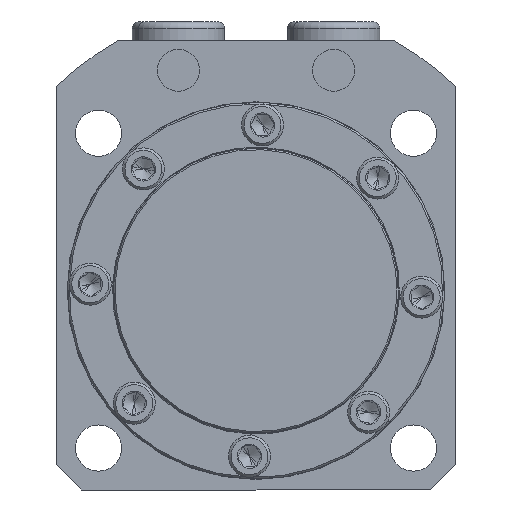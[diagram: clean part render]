
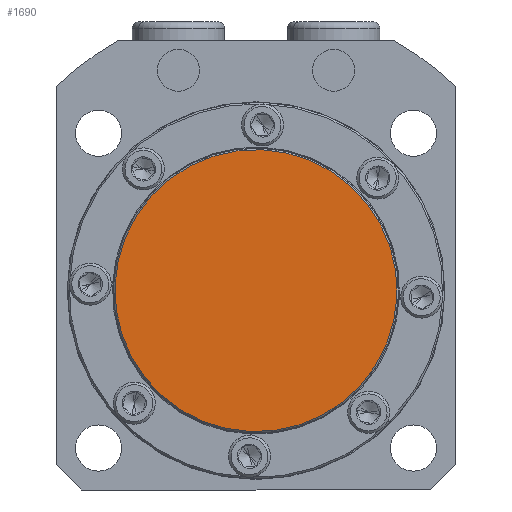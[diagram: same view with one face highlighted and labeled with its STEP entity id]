
A CAD part, front view. The second image highlights one B-rep face of the part: STEP entity #1690.
In plain terms, the highlighted planar face has unit normal (0, -1, 0).
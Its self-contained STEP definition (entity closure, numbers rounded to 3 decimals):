
#644 = EDGE_CURVE ( 'NONE', #2389, #2469, #5533, .T. ) ;
#1546 = ORIENTED_EDGE ( 'NONE', *, *, #644, .T. ) ;
#1547 = ORIENTED_EDGE ( 'NONE', *, *, #2965, .T. ) ;
#1690 = ADVANCED_FACE ( 'NONE', ( #4175 ), #4176, .T. ) ;
#2224 = EDGE_LOOP ( 'NONE', ( #1546, #1547 ) ) ;
#2389 = VERTEX_POINT ( 'NONE', #4348 ) ;
#2469 = VERTEX_POINT ( 'NONE', #4428 ) ;
#2965 = EDGE_CURVE ( 'NONE', #2469, #2389, #3179, .T. ) ;
#3103 = AXIS2_PLACEMENT_3D ( 'NONE', #4167, #4179, #4180 ) ;
#3179 = CIRCLE ( 'NONE', #3182, 33.6 ) ;
#3182 = AXIS2_PLACEMENT_3D ( 'NONE', #4661, #4662, #4663 ) ;
#3681 = CARTESIAN_POINT ( 'NONE',  ( 0., -13., 0. ) ) ;
#3682 = DIRECTION ( 'NONE',  ( 0., -1., 0. ) ) ;
#3683 = DIRECTION ( 'NONE',  ( 0., 0., -1. ) ) ;
#4167 = CARTESIAN_POINT ( 'NONE',  ( 0., -13., 0. ) ) ;
#4175 = FACE_OUTER_BOUND ( 'NONE', #2224, .T. ) ;
#4176 = PLANE ( 'NONE',  #3103 ) ;
#4179 = DIRECTION ( 'NONE',  ( 0., -1., 0. ) ) ;
#4180 = DIRECTION ( 'NONE',  ( 0., 0., -1. ) ) ;
#4348 = CARTESIAN_POINT ( 'NONE',  ( 0., -13., 33.6 ) ) ;
#4428 = CARTESIAN_POINT ( 'NONE',  ( 0., -13., -33.6 ) ) ;
#4661 = CARTESIAN_POINT ( 'NONE',  ( 0., -13., 0. ) ) ;
#4662 = DIRECTION ( 'NONE',  ( 0., -1., 0. ) ) ;
#4663 = DIRECTION ( 'NONE',  ( 0., 0., -1. ) ) ;
#5533 = CIRCLE ( 'NONE', #5625, 33.6 ) ;
#5625 = AXIS2_PLACEMENT_3D ( 'NONE', #3681, #3682, #3683 ) ;
